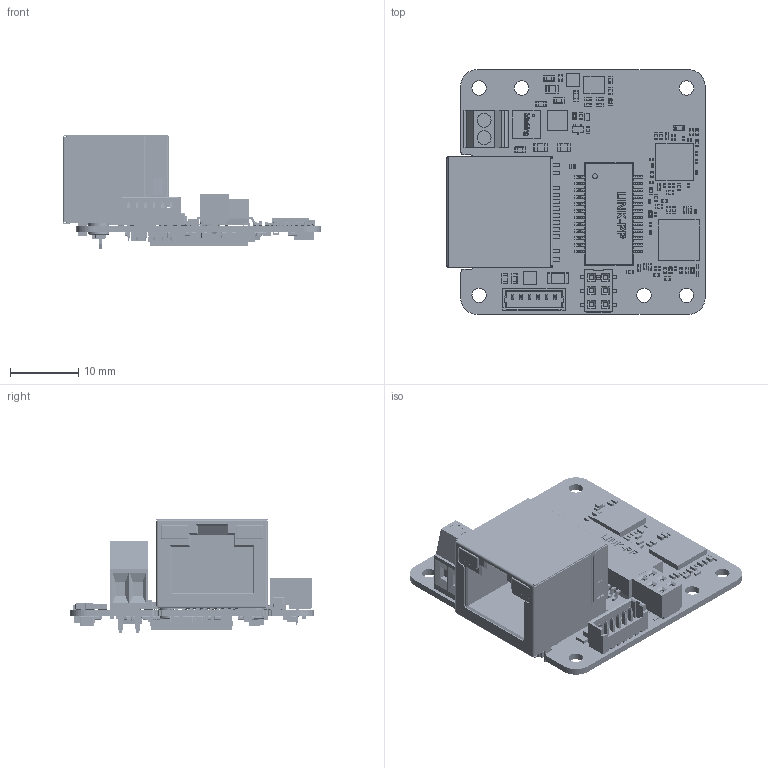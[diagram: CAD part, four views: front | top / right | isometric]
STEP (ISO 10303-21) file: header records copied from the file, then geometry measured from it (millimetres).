
FILE_DESCRIPTION(/* description */ ('ZB Platinen-Kamera'),/* implementation_level */ '2;1');
FILE_NAME(/* name */ 'KSM_306-23-19-00-00_ZB PlatinenKam_GigE-4SB_IMX676.stp',/* time_stamp */ '2025-10-14T20:34:06+02:00',/* author */ ('khw'),/* organization */ ('TIS/ Germany'),/* preprocessor_version */ 'ST-DEVELOPER v20',/* originating_system */ 'Autodesk Inventor 2025',/* authorisation */ '520025 mm^3');
FILE_SCHEMA (('AUTOMOTIVE_DESIGN { 1 0 10303 214 3 1 1 }'));
Products named in the file (2): 306-23-19-00-00_ZB PlatinenKam_GigE-4SB_IMX676; Sensorboard_4G-JE0-0110_GigE4-SB-IMX676_13-10-2025
Assembly tree (1 placements, depth 2):
  306-23-19-00-00_ZB PlatinenKam_GigE-4SB_IMX676
    Sensorboard_4G-JE0-0110_GigE4-SB-IMX676_13-10-2025
Bounding box: 37.99 x 36.01 x 16.65 mm (x, y, z)
Volume: 4805 mm3; surface area: 7313.6 mm2
Topology: 6 solids, 6 shells, 9956 faces, 23137 edges, 12196 vertices
Faces by surface type: cylinder 4299, plane 3549, sphere 1040, torus 1032, bspline 34, cone 2
Full cylindrical faces by diameter (mm): 0.3 x1, 0.5 x6, 0.739 x1, 1.05 x2, 1.2 x2, 2.032 x2, 2.1 x6
Entity records: 279631 total; most frequent: DIRECTION 50539, CARTESIAN_POINT 45418, ORIENTED_EDGE 44194, EDGE_CURVE 22097, AXIS2_PLACEMENT_3D 18573, LINE 13393, VECTOR 13393, VERTEX_POINT 12196
